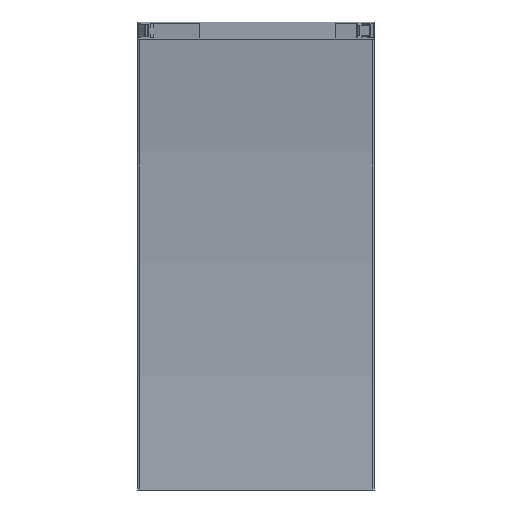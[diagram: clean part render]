
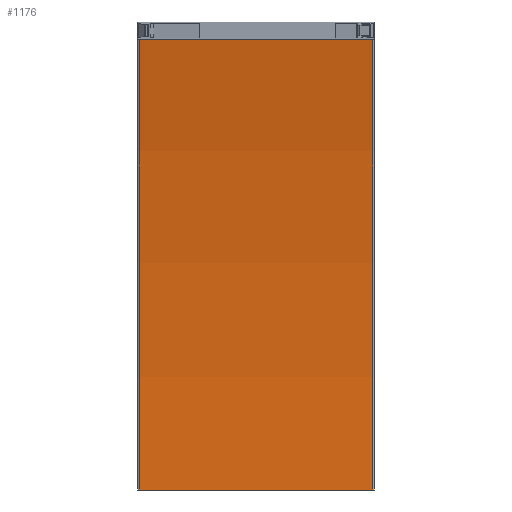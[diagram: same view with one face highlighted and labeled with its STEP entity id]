
A CAD part, left-side view. The second image highlights one B-rep face of the part: STEP entity #1176.
In plain terms, the highlighted cylindrical face has radius 872.2 mm (diameter 1744.4 mm), a partial arc.
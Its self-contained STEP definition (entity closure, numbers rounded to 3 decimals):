
#36=CYLINDRICAL_SURFACE('',#1333,872.2);
#59=LINE('',#2014,#127);
#60=LINE('',#2016,#128);
#127=VECTOR('',#1587,10.);
#128=VECTOR('',#1588,10.);
#216=FACE_OUTER_BOUND('',#282,.T.);
#282=EDGE_LOOP('',(#821,#822,#823,#824));
#366=CIRCLE('',#1332,872.2);
#367=CIRCLE('',#1334,872.2);
#481=VERTEX_POINT('',#2007);
#482=VERTEX_POINT('',#2009);
#483=VERTEX_POINT('',#2013);
#484=VERTEX_POINT('',#2015);
#620=EDGE_CURVE('',#481,#482,#366,.T.);
#621=EDGE_CURVE('',#483,#481,#59,.T.);
#622=EDGE_CURVE('',#484,#482,#60,.T.);
#623=EDGE_CURVE('',#483,#484,#367,.T.);
#821=ORIENTED_EDGE('',*,*,#621,.T.);
#822=ORIENTED_EDGE('',*,*,#620,.T.);
#823=ORIENTED_EDGE('',*,*,#622,.F.);
#824=ORIENTED_EDGE('',*,*,#623,.F.);
#1176=ADVANCED_FACE('',(#216),#36,.F.);
#1332=AXIS2_PLACEMENT_3D('',#2011,#1583,#1584);
#1333=AXIS2_PLACEMENT_3D('',#2012,#1585,#1586);
#1334=AXIS2_PLACEMENT_3D('',#2017,#1589,#1590);
#1583=DIRECTION('center_axis',(0.,-1.,0.));
#1584=DIRECTION('ref_axis',(1.,0.,0.));
#1585=DIRECTION('center_axis',(0.,-1.,0.));
#1586=DIRECTION('ref_axis',(1.,0.,0.));
#1587=DIRECTION('',(0.,-1.,0.));
#1588=DIRECTION('',(0.,-1.,0.));
#1589=DIRECTION('center_axis',(0.,-1.,0.));
#1590=DIRECTION('ref_axis',(1.,0.,0.));
#2007=CARTESIAN_POINT('',(-18.595,-41.736,0.));
#2009=CARTESIAN_POINT('',(-37.654,-41.736,181.341));
#2011=CARTESIAN_POINT('Origin',(-890.795,-41.736,0.));
#2012=CARTESIAN_POINT('Origin',(-890.795,5.314,0.));
#2013=CARTESIAN_POINT('',(-18.595,52.364,0.));
#2014=CARTESIAN_POINT('',(-18.595,52.364,0.));
#2015=CARTESIAN_POINT('',(-37.654,52.364,181.341));
#2016=CARTESIAN_POINT('',(-37.654,52.364,181.341));
#2017=CARTESIAN_POINT('Origin',(-890.795,52.364,0.));
